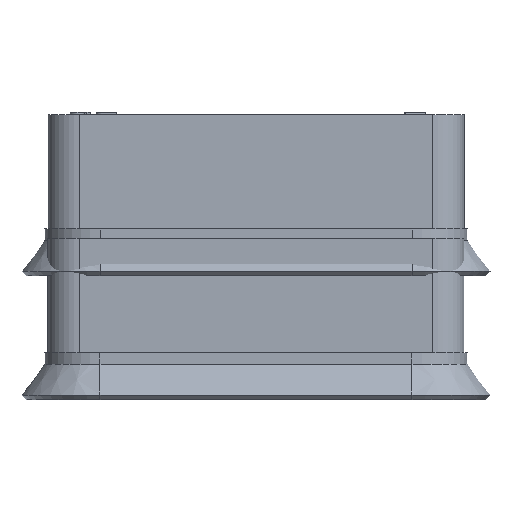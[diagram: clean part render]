
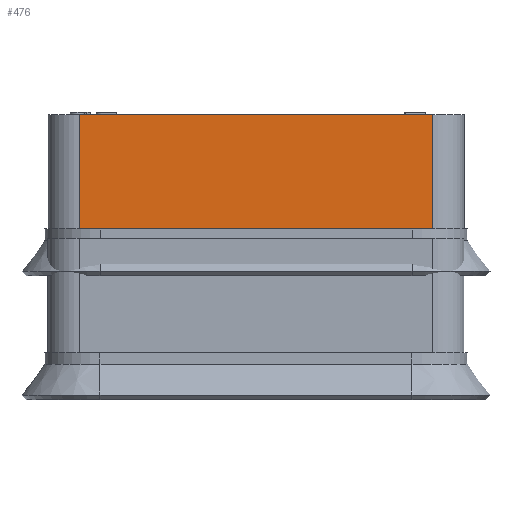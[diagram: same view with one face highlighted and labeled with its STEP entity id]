
A CAD part, front view. The second image highlights one B-rep face of the part: STEP entity #476.
In plain terms, the highlighted planar face has unit normal (0, -1, 0).
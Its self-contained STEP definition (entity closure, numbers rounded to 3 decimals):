
#476 = ADVANCED_FACE( '', ( #981 ), #982, .F. );
#981 = FACE_OUTER_BOUND( '', #1603, .T. );
#982 = PLANE( '', #1604 );
#1603 = EDGE_LOOP( '', ( #3180, #3181, #3182, #3183 ) );
#1604 = AXIS2_PLACEMENT_3D( '', #3184, #3185, #3186 );
#3180 = ORIENTED_EDGE( '', *, *, #3940, .T. );
#3181 = ORIENTED_EDGE( '', *, *, #3967, .F. );
#3182 = ORIENTED_EDGE( '', *, *, #3613, .F. );
#3183 = ORIENTED_EDGE( '', *, *, #3554, .T. );
#3184 = CARTESIAN_POINT( '', ( -17., -7., 11. ) );
#3185 = DIRECTION( '', ( 0., 1., 0. ) );
#3186 = DIRECTION( '', ( 0., 0., 1. ) );
#3554 = EDGE_CURVE( '', #4234, #4232, #4235, .T. );
#3613 = EDGE_CURVE( '', #4234, #4339, #4340, .T. );
#3940 = EDGE_CURVE( '', #4232, #4789, #4791, .T. );
#3967 = EDGE_CURVE( '', #4339, #4789, #4819, .T. );
#4232 = VERTEX_POINT( '', #5258 );
#4234 = VERTEX_POINT( '', #5260 );
#4235 = LINE( '', #5261, #5262 );
#4339 = VERTEX_POINT( '', #5503 );
#4340 = LINE( '', #5504, #5505 );
#4789 = VERTEX_POINT( '', #6463 );
#4791 = LINE( '', #6465, #6466 );
#4819 = LINE( '', #6500, #6501 );
#5258 = CARTESIAN_POINT( '', ( -17., -7., 0. ) );
#5260 = CARTESIAN_POINT( '', ( -17., -7., 11. ) );
#5261 = CARTESIAN_POINT( '', ( -17., -7., 11. ) );
#5262 = VECTOR( '', #6643, 1000. );
#5503 = CARTESIAN_POINT( '', ( 17., -7., 11. ) );
#5504 = CARTESIAN_POINT( '', ( -17., -7., 11. ) );
#5505 = VECTOR( '', #6666, 1000. );
#6463 = CARTESIAN_POINT( '', ( 17., -7., 0. ) );
#6465 = CARTESIAN_POINT( '', ( -17., -7., 0. ) );
#6466 = VECTOR( '', #6875, 1000. );
#6500 = CARTESIAN_POINT( '', ( 17., -7., 11. ) );
#6501 = VECTOR( '', #6888, 1000. );
#6643 = DIRECTION( '', ( 0., 0., -1. ) );
#6666 = DIRECTION( '', ( 1., 0., 0. ) );
#6875 = DIRECTION( '', ( 1., 0., 0. ) );
#6888 = DIRECTION( '', ( 0., 0., -1. ) );
